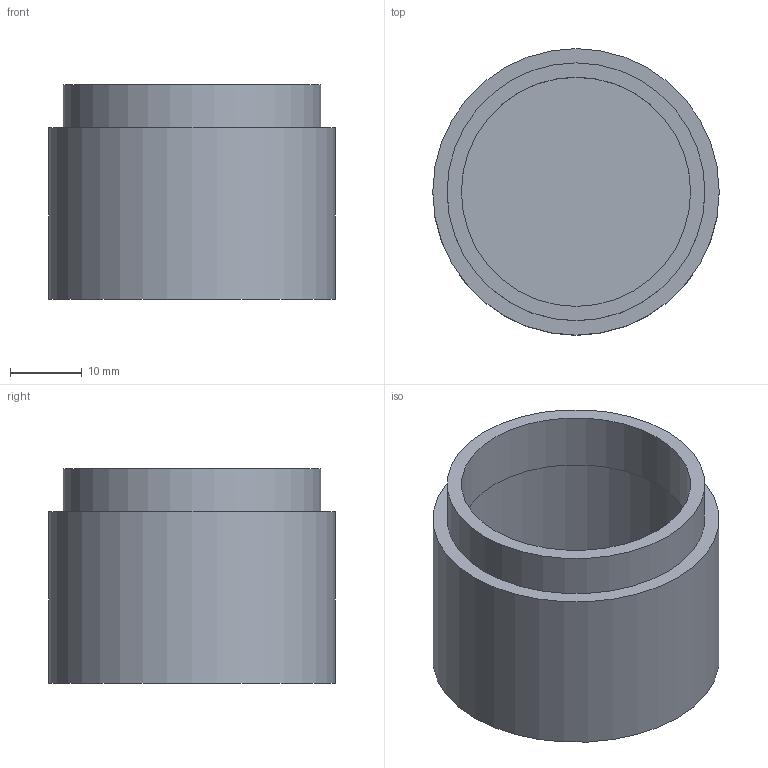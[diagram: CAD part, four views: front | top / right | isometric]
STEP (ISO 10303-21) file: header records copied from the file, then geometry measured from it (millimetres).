
FILE_DESCRIPTION(('Open CASCADE Model'),'2;1');
FILE_NAME('Open CASCADE Shape Model','2026-10-04T02:31:48',('Author'),( 'Open CASCADE'),'Open CASCADE STEP processor 8.0','Open CASCADE 8.0' ,'Unknown');
FILE_SCHEMA(('AUTOMOTIVE_DESIGN { 1 0 10303 214 1 1 1 1 }'));
Length unit declared in the file: millimetre
Products named in the file (1): Open CASCADE STEP translator 8.0 427
Bounding box: 40 x 40 x 30 mm (x, y, z)
Volume: 10492.9 mm3; surface area: 9588.1 mm2
Topology: 1 solids, 1 shells, 9 faces, 12 edges, 8 vertices
Faces by surface type: plane 5, cylinder 4
Full cylindrical faces by diameter (mm): 32 x1, 36 x2, 40 x1
Entity records: 360 total; most frequent: DIRECTION 64, CARTESIAN_POINT 54, ORIENTED_EDGE 24, PCURVE 24, DEFINITIONAL_REPRESENTATION 24, LINE 20, VECTOR 20, AXIS2_PLACEMENT_3D 18
